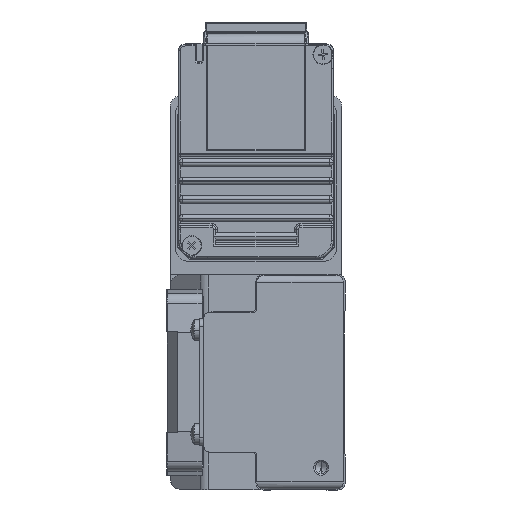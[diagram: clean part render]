
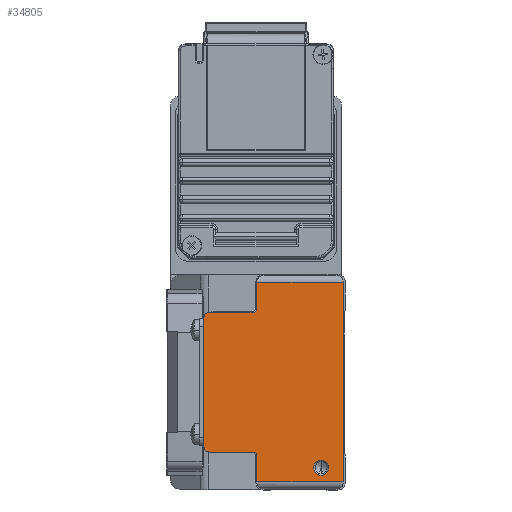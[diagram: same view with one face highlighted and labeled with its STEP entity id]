
A CAD part, left-side view. The second image highlights one B-rep face of the part: STEP entity #34805.
In plain terms, the highlighted planar face has unit normal (-1, 0, 0) as drawn and (0, 0, 1) by its records, which use the part's own axes.
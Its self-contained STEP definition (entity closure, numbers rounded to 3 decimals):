
#606 = CARTESIAN_POINT ( 'NONE',  ( -26.8, 21.8, 770. ) ) ;
#3343 = VERTEX_POINT ( 'NONE', #13394 ) ;
#3553 = DIRECTION ( 'NONE',  ( 1., 0., 0. ) ) ;
#4027 = VERTEX_POINT ( 'NONE', #7887 ) ;
#4116 = CIRCLE ( 'NONE', #23229, 1. ) ;
#4781 = VERTEX_POINT ( 'NONE', #10701 ) ;
#5389 = EDGE_CURVE ( 'NONE', #12620, #4027, #15799, .T. ) ;
#5396 = CARTESIAN_POINT ( 'NONE',  ( 19.8, 23.8, 770. ) ) ;
#5428 = VERTEX_POINT ( 'NONE', #37741 ) ;
#5743 = EDGE_LOOP ( 'NONE', ( #36183, #29053, #36796, #9822, #42171, #38581, #26639, #44965, #16418, #6981, #9126, #17605 ) ) ;
#5887 = LINE ( 'NONE', #19883, #9597 ) ;
#6461 = VERTEX_POINT ( 'NONE', #28228 ) ;
#6981 = ORIENTED_EDGE ( 'NONE', *, *, #43176, .T. ) ;
#7020 = VECTOR ( 'NONE', #39396, 1000. ) ;
#7361 = DIRECTION ( 'NONE',  ( 0., -1., 0. ) ) ;
#7459 = EDGE_LOOP ( 'NONE', ( #19973, #26027 ) ) ;
#7767 = CARTESIAN_POINT ( 'NONE',  ( 19.8, 24.8, 770. ) ) ;
#7782 = CARTESIAN_POINT ( 'NONE',  ( 18.8, 24.8, 770. ) ) ;
#7887 = CARTESIAN_POINT ( 'NONE',  ( -17.3, 38., 770. ) ) ;
#7946 = CARTESIAN_POINT ( 'NONE',  ( -18.8, 24.8, 770. ) ) ;
#7990 = AXIS2_PLACEMENT_3D ( 'NONE', #14913, #21787, #11440 ) ;
#8444 = EDGE_CURVE ( 'NONE', #5428, #15071, #40463, .T. ) ;
#8970 = CARTESIAN_POINT ( 'NONE',  ( 17.3, 36.5, 770. ) ) ;
#9126 = ORIENTED_EDGE ( 'NONE', *, *, #5389, .T. ) ;
#9513 = DIRECTION ( 'NONE',  ( -1., 0., 0. ) ) ;
#9597 = VECTOR ( 'NONE', #16457, 1000. ) ;
#9822 = ORIENTED_EDGE ( 'NONE', *, *, #29678, .T. ) ;
#10089 = EDGE_CURVE ( 'NONE', #20597, #34891, #24163, .T. ) ;
#10127 = VECTOR ( 'NONE', #21283, 1000. ) ;
#10230 = CARTESIAN_POINT ( 'NONE',  ( -26.8, 0.5, 770. ) ) ;
#10701 = CARTESIAN_POINT ( 'NONE',  ( 18.8, 24.8, 770. ) ) ;
#10725 = LINE ( 'NONE', #38846, #10127 ) ;
#10931 = CIRCLE ( 'NONE', #44105, 1. ) ;
#11059 = CARTESIAN_POINT ( 'NONE',  ( -18.8, 36.5, 770. ) ) ;
#11398 = DIRECTION ( 'NONE',  ( 1., 0., 0. ) ) ;
#11421 = VECTOR ( 'NONE', #9513, 1000. ) ;
#11440 = DIRECTION ( 'NONE',  ( -1., 0., 0. ) ) ;
#11844 = AXIS2_PLACEMENT_3D ( 'NONE', #15805, #43292, #37079 ) ;
#12620 = VERTEX_POINT ( 'NONE', #36563 ) ;
#13243 = LINE ( 'NONE', #37920, #40156 ) ;
#13394 = CARTESIAN_POINT ( 'NONE',  ( 26.8, 0.5, 770. ) ) ;
#13654 = DIRECTION ( 'NONE',  ( 0., -1., 0. ) ) ;
#13964 = CARTESIAN_POINT ( 'NONE',  ( -19.8, 24.8, 770. ) ) ;
#14560 = VECTOR ( 'NONE', #29891, 1000. ) ;
#14913 = CARTESIAN_POINT ( 'NONE',  ( -23., 6.5, 770. ) ) ;
#15071 = VERTEX_POINT ( 'NONE', #23591 ) ;
#15471 = AXIS2_PLACEMENT_3D ( 'NONE', #606, #32221, #11398 ) ;
#15799 = LINE ( 'NONE', #18984, #14560 ) ;
#15805 = CARTESIAN_POINT ( 'NONE',  ( -23., 6.5, 770. ) ) ;
#16241 = CIRCLE ( 'NONE', #11844, 2. ) ;
#16418 = ORIENTED_EDGE ( 'NONE', *, *, #44796, .T. ) ;
#16457 = DIRECTION ( 'NONE',  ( -1., 0., 0. ) ) ;
#17605 = ORIENTED_EDGE ( 'NONE', *, *, #22345, .T. ) ;
#18254 = CIRCLE ( 'NONE', #7990, 2. ) ;
#18984 = CARTESIAN_POINT ( 'NONE',  ( 17.3, 38., 770. ) ) ;
#19530 = VERTEX_POINT ( 'NONE', #33856 ) ;
#19599 = CARTESIAN_POINT ( 'NONE',  ( -19.8, 23.8, 770. ) ) ;
#19883 = CARTESIAN_POINT ( 'NONE',  ( 26.8, 23.8, 770. ) ) ;
#19973 = ORIENTED_EDGE ( 'NONE', *, *, #31102, .T. ) ;
#20597 = VERTEX_POINT ( 'NONE', #21370 ) ;
#21283 = DIRECTION ( 'NONE',  ( 0., -1., 0. ) ) ;
#21370 = CARTESIAN_POINT ( 'NONE',  ( -18.8, 36.5, 770. ) ) ;
#21787 = DIRECTION ( 'NONE',  ( 0., 0., -1. ) ) ;
#21830 = VECTOR ( 'NONE', #33066, 1000. ) ;
#21894 = CARTESIAN_POINT ( 'NONE',  ( -26.8, 0.5, 770. ) ) ;
#22345 = EDGE_CURVE ( 'NONE', #4027, #20597, #33348, .T. ) ;
#22370 = LINE ( 'NONE', #21894, #21830 ) ;
#23007 = DIRECTION ( 'NONE',  ( 0., 0., 1. ) ) ;
#23229 = AXIS2_PLACEMENT_3D ( 'NONE', #13964, #28090, #38643 ) ;
#23591 = CARTESIAN_POINT ( 'NONE',  ( -26.8, 23.8, 770. ) ) ;
#23843 = CARTESIAN_POINT ( 'NONE',  ( -21., 6.5, 770. ) ) ;
#24163 = LINE ( 'NONE', #11059, #32097 ) ;
#24482 = VERTEX_POINT ( 'NONE', #10230 ) ;
#26027 = ORIENTED_EDGE ( 'NONE', *, *, #33109, .T. ) ;
#26639 = ORIENTED_EDGE ( 'NONE', *, *, #40410, .T. ) ;
#26769 = VERTEX_POINT ( 'NONE', #28304 ) ;
#27536 = CARTESIAN_POINT ( 'NONE',  ( -17.3, 36.5, 770. ) ) ;
#27596 = CIRCLE ( 'NONE', #38612, 1.5 ) ;
#28090 = DIRECTION ( 'NONE',  ( 0., 0., 1. ) ) ;
#28228 = CARTESIAN_POINT ( 'NONE',  ( -25., 6.5, 770. ) ) ;
#28304 = CARTESIAN_POINT ( 'NONE',  ( 18.8, 36.5, 770. ) ) ;
#28754 = EDGE_CURVE ( 'NONE', #24482, #3343, #22370, .T. ) ;
#29053 = ORIENTED_EDGE ( 'NONE', *, *, #39485, .F. ) ;
#29678 = EDGE_CURVE ( 'NONE', #15071, #24482, #10725, .T. ) ;
#29891 = DIRECTION ( 'NONE',  ( -1., 0., 0. ) ) ;
#31102 = EDGE_CURVE ( 'NONE', #6461, #43433, #16241, .T. ) ;
#31434 = VERTEX_POINT ( 'NONE', #5396 ) ;
#32097 = VECTOR ( 'NONE', #7361, 1000. ) ;
#32221 = DIRECTION ( 'NONE',  ( 0., 0., 1. ) ) ;
#33066 = DIRECTION ( 'NONE',  ( 1., 0., 0. ) ) ;
#33109 = EDGE_CURVE ( 'NONE', #43433, #6461, #18254, .T. ) ;
#33275 = EDGE_CURVE ( 'NONE', #4781, #31434, #10931, .T. ) ;
#33348 = CIRCLE ( 'NONE', #36277, 1.5 ) ;
#33856 = CARTESIAN_POINT ( 'NONE',  ( 26.8, 23.8, 770. ) ) ;
#34805 = ADVANCED_FACE ( 'NONE', ( #39805, #39336 ), #35891, .T. ) ;
#34891 = VERTEX_POINT ( 'NONE', #7946 ) ;
#35178 = DIRECTION ( 'NONE',  ( 0., 0., 1. ) ) ;
#35891 = PLANE ( 'NONE',  #15471 ) ;
#36183 = ORIENTED_EDGE ( 'NONE', *, *, #10089, .T. ) ;
#36197 = LINE ( 'NONE', #7782, #7020 ) ;
#36277 = AXIS2_PLACEMENT_3D ( 'NONE', #27536, #41579, #37457 ) ;
#36563 = CARTESIAN_POINT ( 'NONE',  ( 17.3, 38., 770. ) ) ;
#36796 = ORIENTED_EDGE ( 'NONE', *, *, #8444, .T. ) ;
#37079 = DIRECTION ( 'NONE',  ( -1., 0., 0. ) ) ;
#37134 = DIRECTION ( 'NONE',  ( 1., 0., 0. ) ) ;
#37457 = DIRECTION ( 'NONE',  ( 1., 0., 0. ) ) ;
#37741 = CARTESIAN_POINT ( 'NONE',  ( -19.8, 23.8, 770. ) ) ;
#37920 = CARTESIAN_POINT ( 'NONE',  ( 26.8, 24., 770. ) ) ;
#38581 = ORIENTED_EDGE ( 'NONE', *, *, #44320, .F. ) ;
#38612 = AXIS2_PLACEMENT_3D ( 'NONE', #8970, #23007, #37134 ) ;
#38643 = DIRECTION ( 'NONE',  ( 1., 0., 0. ) ) ;
#38846 = CARTESIAN_POINT ( 'NONE',  ( -26.8, 24., 770. ) ) ;
#39336 = FACE_OUTER_BOUND ( 'NONE', #5743, .T. ) ;
#39396 = DIRECTION ( 'NONE',  ( 0., 1., 0. ) ) ;
#39485 = EDGE_CURVE ( 'NONE', #5428, #34891, #4116, .T. ) ;
#39805 = FACE_BOUND ( 'NONE', #7459, .T. ) ;
#40156 = VECTOR ( 'NONE', #13654, 1000. ) ;
#40410 = EDGE_CURVE ( 'NONE', #19530, #31434, #5887, .T. ) ;
#40463 = LINE ( 'NONE', #19599, #11421 ) ;
#41579 = DIRECTION ( 'NONE',  ( 0., 0., 1. ) ) ;
#42171 = ORIENTED_EDGE ( 'NONE', *, *, #28754, .T. ) ;
#43176 = EDGE_CURVE ( 'NONE', #26769, #12620, #27596, .T. ) ;
#43292 = DIRECTION ( 'NONE',  ( 0., 0., -1. ) ) ;
#43433 = VERTEX_POINT ( 'NONE', #23843 ) ;
#44105 = AXIS2_PLACEMENT_3D ( 'NONE', #7767, #35178, #3553 ) ;
#44320 = EDGE_CURVE ( 'NONE', #19530, #3343, #13243, .T. ) ;
#44796 = EDGE_CURVE ( 'NONE', #4781, #26769, #36197, .T. ) ;
#44965 = ORIENTED_EDGE ( 'NONE', *, *, #33275, .F. ) ;
